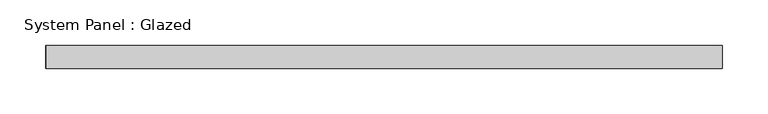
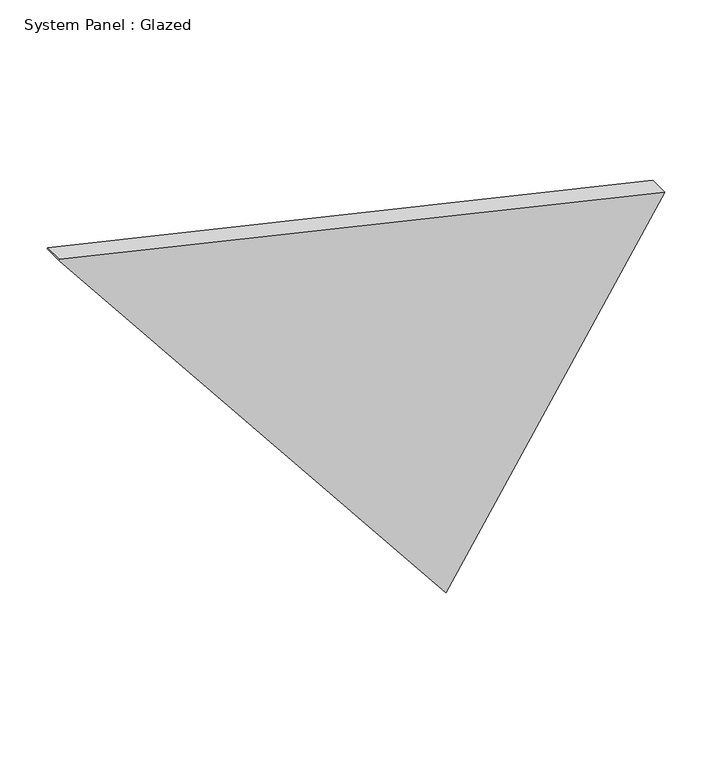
"""IFC4 building model written with IfcOpenShell, lengths in millimetres: plate geometry, System Panel : Glazed."""

from ifc_helpers import new_model, si_unit, frame, origin, place, context, project, spatial, polyline, outline, extrude, source, transform, mapped, element, save


def system_panel_glazed_3a158d1d(model_context):
    return source(origin(), model_context, "Body", "SweptSolid", [
        extrude(outline(polyline([(0.0, 102.984894), (425.467544, 371.9407581), (598.3886795, -371.0450478), (596.9717345, -371.9407581), (0.0, 102.984894)])), frame((0.0, -44.45, 0.0), z_axis=(0.0, 1.0, 0.0), x_axis=(0.0, 0.0, 1.0)), (0.0, 0.0, 1.0), 25.4),
    ])


if __name__ == "__main__":
    model = new_model("IFC4")
    model_context = context("Model", 3, world=origin())
    ifc_project = project(units=[si_unit("LENGTHUNIT", "METRE", prefix="MILLI")], contexts=[model_context])
    site = spatial("IfcSite", under=ifc_project)
    building = spatial("IfcBuilding", under=site)
    placement = place(None, origin())
    system_panel_glazed_shape = system_panel_glazed_3a158d1d(model_context)
    element("IfcPlate", 1, ObjectType="System Panel : Glazed", at=placement, inside=building, context=model_context, shape_type="MappedRepresentation", body=[
        mapped(system_panel_glazed_shape, transform((0.0, 0.0, 0.0), x_axis=(1.0, 0.0, 0.0), y_axis=(0.0, 1.0, 0.0), z_axis=(0.0, 0.0, 1.0))),
    ])
    save(model, "model.ifc")
